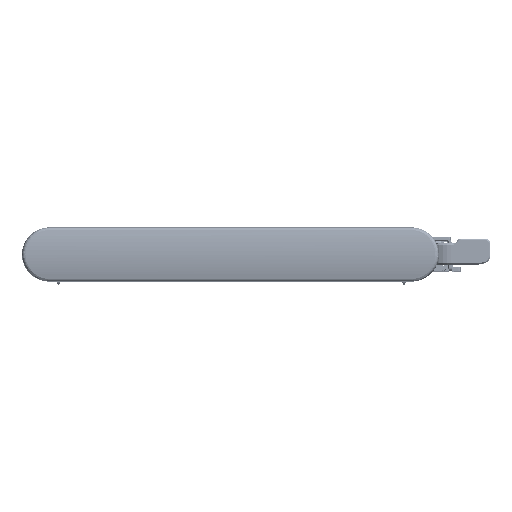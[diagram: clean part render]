
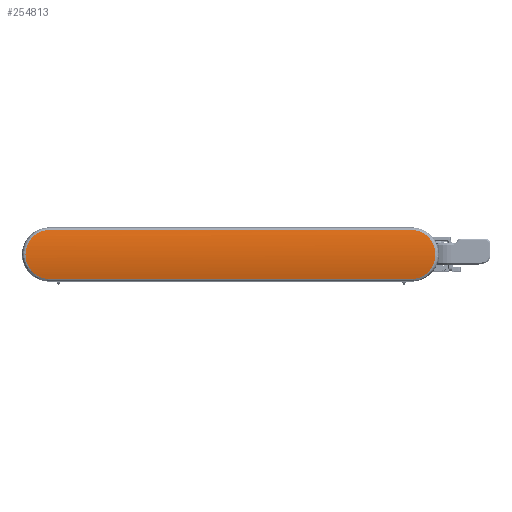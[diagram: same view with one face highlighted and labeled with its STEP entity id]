
A CAD part, top view. The second image highlights one B-rep face of the part: STEP entity #254813.
In plain terms, the highlighted cylindrical face has radius 4.646 mm (diameter 9.292 mm), a partial arc.
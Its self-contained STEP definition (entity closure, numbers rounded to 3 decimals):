
#229896=DIRECTION('',(0.,-1.,0.));
#229897=VECTOR('',#229896,14.54);
#229898=CARTESIAN_POINT('',(-37.671,42.68,
1.015));
#229899=LINE('',#229898,#229897);
#229914=CARTESIAN_POINT('',(-37.77,27.189,
0.032));
#229915=CARTESIAN_POINT('',(-37.772,27.187,
0.286));
#229916=CARTESIAN_POINT('',(-37.723,27.397,
0.808));
#229917=CARTESIAN_POINT('',(-37.67,27.889,
1.012));
#229918=CARTESIAN_POINT('',(-37.671,28.14,
1.015));
#229920=CARTESIAN_POINT('',(-37.77,27.19,
-0.013));
#229921=CARTESIAN_POINT('',(-37.77,27.189,
0.002));
#229922=CARTESIAN_POINT('',(-37.77,27.189,
0.017));
#229923=CARTESIAN_POINT('',(-37.77,27.189,
0.032));
#229925=CARTESIAN_POINT('',(-37.661,28.14,
-0.946));
#229926=CARTESIAN_POINT('',(-37.661,28.057,
-0.947));
#229927=CARTESIAN_POINT('',(-37.663,27.976,
-0.936));
#229928=CARTESIAN_POINT('',(-37.668,27.899,
-0.914));
#229934=DIRECTION('',(0.,1.,0.));
#229935=VECTOR('',#229934,14.54);
#229936=CARTESIAN_POINT('',(-37.661,28.14,
-0.946));
#229937=LINE('',#229936,#229935);
#229946=CARTESIAN_POINT('',(-37.661,42.68,
-0.946));
#229947=CARTESIAN_POINT('',(-37.661,42.75,
-0.946));
#229948=CARTESIAN_POINT('',(-37.664,42.887,
-0.93));
#229949=CARTESIAN_POINT('',(-37.679,43.089,
-0.86));
#229950=CARTESIAN_POINT('',(-37.702,43.275,
-0.741));
#229951=CARTESIAN_POINT('',(-37.728,43.431,
-0.58));
#229952=CARTESIAN_POINT('',(-37.75,43.547,
-0.389));
#229953=CARTESIAN_POINT('',(-37.766,43.616,
-0.182));
#229954=CARTESIAN_POINT('',(-37.77,43.631,
-0.039));
#229955=CARTESIAN_POINT('',(-37.77,43.631,
0.034));
#229990=CARTESIAN_POINT('',(-37.77,43.631,
0.034));
#230014=CARTESIAN_POINT('',(-37.77,43.631,
0.034));
#230015=CARTESIAN_POINT('',(-37.771,43.631,
0.108));
#230016=CARTESIAN_POINT('',(-37.768,43.615,
0.254));
#230017=CARTESIAN_POINT('',(-37.754,43.544,
0.463));
#230018=CARTESIAN_POINT('',(-37.733,43.425,
0.655));
#230019=CARTESIAN_POINT('',(-37.709,43.268,
0.814));
#230020=CARTESIAN_POINT('',(-37.688,43.084,
0.931));
#230021=CARTESIAN_POINT('',(-37.674,42.883,
1.));
#230022=CARTESIAN_POINT('',(-37.671,42.749,
1.015));
#230023=CARTESIAN_POINT('',(-37.671,42.68,
1.015));
#230049=CARTESIAN_POINT('',(-37.77,27.19,
-0.013));
#230050=CARTESIAN_POINT('',(-37.769,27.194,
-0.095));
#230051=CARTESIAN_POINT('',(-37.762,27.221,
-0.253));
#230052=CARTESIAN_POINT('',(-37.74,27.323,
-0.487));
#230053=CARTESIAN_POINT('',(-37.711,27.482,
-0.687));
#230054=CARTESIAN_POINT('',(-37.684,27.683,
-0.836));
#230055=CARTESIAN_POINT('',(-37.672,27.825,
-0.894));
#230056=CARTESIAN_POINT('',(-37.668,27.899,
-0.914));
#247137=CARTESIAN_POINT('',(-37.671,42.68,
1.015));
#247138=CARTESIAN_POINT('',(-37.671,28.14,
1.015));
#247139=VERTEX_POINT('',#247137);
#247140=VERTEX_POINT('',#247138);
#247141=VERTEX_POINT('',#229914);
#247142=VERTEX_POINT('',#229920);
#247143=VERTEX_POINT('',#230056);
#247144=VERTEX_POINT('',#229925);
#247145=CARTESIAN_POINT('',(-37.661,42.68,
-0.946));
#247146=VERTEX_POINT('',#247145);
#247147=VERTEX_POINT('',#229990);
#254791=CARTESIAN_POINT('',(-35.911,6000043.805,
-109.606));
#254792=DIRECTION('',(0.,1.,0.));
#254793=DIRECTION('',(0.,0.,-1.));
#254794=AXIS2_PLACEMENT_3D('',#254791,#254792,#254793);
#254795=CYLINDRICAL_SURFACE('',#254794,4.646);
#254797=ORIENTED_EDGE('',*,*,#254796,.T.);
#254799=ORIENTED_EDGE('',*,*,#254798,.T.);
#254801=ORIENTED_EDGE('',*,*,#254800,.T.);
#254802=ORIENTED_EDGE('',*,*,#254781,.T.);
#254804=ORIENTED_EDGE('',*,*,#254803,.F.);
#254806=ORIENTED_EDGE('',*,*,#254805,.F.);
#254808=ORIENTED_EDGE('',*,*,#254807,.T.);
#254810=ORIENTED_EDGE('',*,*,#254809,.F.);
#254811=EDGE_LOOP('',(#254797,#254799,#254801,#254802,#254804,#254806,#254808,
#254810));
#254812=FACE_OUTER_BOUND('',#254811,.F.);
#254813=ADVANCED_FACE('',(#254812),#254795,.T.);
#229919=B_SPLINE_CURVE_WITH_KNOTS('',3,(#229914,#229915,#229916,#229917,
#229918),.UNSPECIFIED.,.F.,.F.,(4,1,4),(0.,0.5,1.),
.UNSPECIFIED.);
#229924=B_SPLINE_CURVE_WITH_KNOTS('',3,(#229920,#229921,#229922,#229923),
.UNSPECIFIED.,.F.,.F.,(4,4),(0.,1.),.UNSPECIFIED.);
#229929=B_SPLINE_CURVE_WITH_KNOTS('',3,(#229925,#229926,#229927,#229928),
.UNSPECIFIED.,.F.,.F.,(4,4),(0.,1.),.UNSPECIFIED.);
#229956=B_SPLINE_CURVE_WITH_KNOTS('',3,(#229946,#229947,#229948,#229949,#229950,
#229951,#229952,#229953,#229954,#229955),.UNSPECIFIED.,.F.,.F.,(4,1,1,1,1,1,1,
4),(0.,0.143,0.286,0.429,
0.571,0.714,0.857,1.),.UNSPECIFIED.);
#230024=B_SPLINE_CURVE_WITH_KNOTS('',3,(#230014,#230015,#230016,#230017,#230018,
#230019,#230020,#230021,#230022,#230023),.UNSPECIFIED.,.F.,.F.,(4,1,1,1,1,1,1,
4),(0.,0.143,0.286,0.429,
0.571,0.714,0.857,1.),.UNSPECIFIED.);
#230057=B_SPLINE_CURVE_WITH_KNOTS('',3,(#230049,#230050,#230051,#230052,#230053,
#230054,#230055,#230056),.UNSPECIFIED.,.F.,.F.,(4,1,1,1,1,4),(0.,0.2,0.4,
0.6,0.8,1.),.UNSPECIFIED.);
#254781=EDGE_CURVE('',#247139,#247140,#229899,.T.);
#254796=EDGE_CURVE('',#247144,#247146,#229937,.T.);
#254798=EDGE_CURVE('',#247146,#247147,#229956,.T.);
#254800=EDGE_CURVE('',#247147,#247139,#230024,.T.);
#254803=EDGE_CURVE('',#247141,#247140,#229919,.T.);
#254805=EDGE_CURVE('',#247142,#247141,#229924,.T.);
#254807=EDGE_CURVE('',#247142,#247143,#230057,.T.);
#254809=EDGE_CURVE('',#247144,#247143,#229929,.T.);
